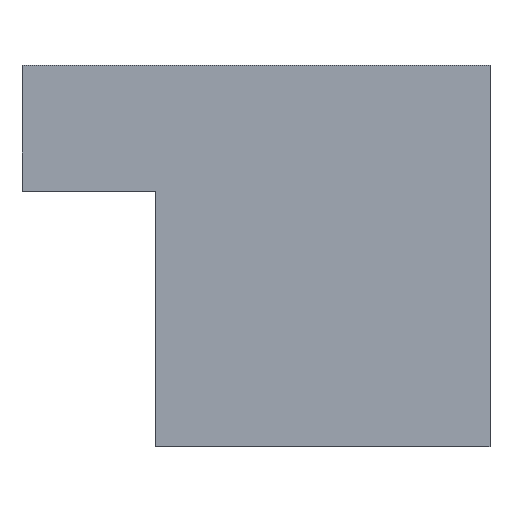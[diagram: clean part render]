
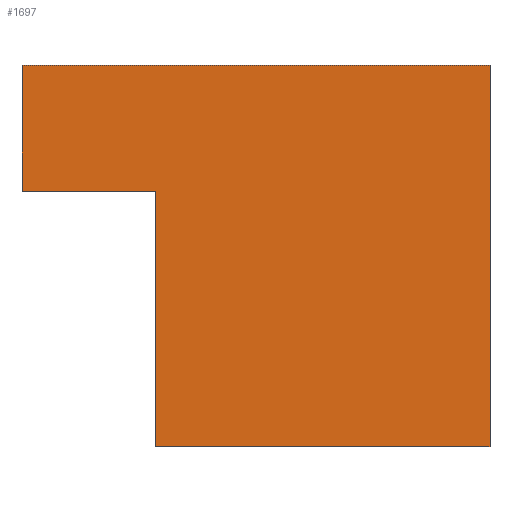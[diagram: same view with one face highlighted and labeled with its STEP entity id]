
A CAD part, left-side view. The second image highlights one B-rep face of the part: STEP entity #1697.
In plain terms, the highlighted planar face has unit normal (-1, 0, 0).
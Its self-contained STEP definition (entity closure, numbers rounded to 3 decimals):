
#100 = PLANE('',#101);
#101 = AXIS2_PLACEMENT_3D('',#102,#103,#104);
#102 = CARTESIAN_POINT('',(0.,0.,0.));
#103 = DIRECTION('',(-0.,1.,0.));
#104 = DIRECTION('',(0.,0.,1.));
#275 = PLANE('',#276);
#276 = AXIS2_PLACEMENT_3D('',#277,#278,#279);
#277 = CARTESIAN_POINT('',(0.,0.,0.));
#278 = DIRECTION('',(0.,0.,1.));
#279 = DIRECTION('',(1.,0.,-0.));
#335 = PLANE('',#336);
#336 = AXIS2_PLACEMENT_3D('',#337,#338,#339);
#337 = CARTESIAN_POINT('',(0.,0.,34.613));
#338 = DIRECTION('',(0.,0.,1.));
#339 = DIRECTION('',(1.,0.,-0.));
#613 = VERTEX_POINT('',#614);
#614 = CARTESIAN_POINT('',(0.,30.364,0.));
#628 = PLANE('',#629);
#629 = AXIS2_PLACEMENT_3D('',#630,#631,#632);
#630 = CARTESIAN_POINT('',(19.13,30.364,13.535
    ));
#631 = DIRECTION('',(0.,1.,0.));
#632 = DIRECTION('',(0.,-0.,1.));
#640 = EDGE_CURVE('',#641,#613,#643,.T.);
#641 = VERTEX_POINT('',#642);
#642 = CARTESIAN_POINT('',(0.,0.,0.));
#643 = SURFACE_CURVE('',#644,(#648,#655),.PCURVE_S1.);
#644 = LINE('',#645,#646);
#645 = CARTESIAN_POINT('',(0.,0.,0.));
#646 = VECTOR('',#647,1.);
#647 = DIRECTION('',(-0.,1.,0.));
#648 = PCURVE('',#275,#649);
#649 = DEFINITIONAL_REPRESENTATION('',(#650),#654);
#650 = LINE('',#651,#652);
#651 = CARTESIAN_POINT('',(0.,0.));
#652 = VECTOR('',#653,1.);
#653 = DIRECTION('',(0.,1.));
#654 = ( GEOMETRIC_REPRESENTATION_CONTEXT(2) 
PARAMETRIC_REPRESENTATION_CONTEXT() REPRESENTATION_CONTEXT('2D SPACE',''
  ) );
#655 = PCURVE('',#656,#661);
#656 = PLANE('',#657);
#657 = AXIS2_PLACEMENT_3D('',#658,#659,#660);
#658 = CARTESIAN_POINT('',(0.,0.,0.));
#659 = DIRECTION('',(1.,0.,-0.));
#660 = DIRECTION('',(0.,0.,1.));
#661 = DEFINITIONAL_REPRESENTATION('',(#662),#666);
#662 = LINE('',#663,#664);
#663 = CARTESIAN_POINT('',(0.,0.));
#664 = VECTOR('',#665,1.);
#665 = DIRECTION('',(0.,-1.));
#666 = ( GEOMETRIC_REPRESENTATION_CONTEXT(2) 
PARAMETRIC_REPRESENTATION_CONTEXT() REPRESENTATION_CONTEXT('2D SPACE',''
  ) );
#716 = VERTEX_POINT('',#717);
#717 = CARTESIAN_POINT('',(0.,0.,34.613));
#808 = EDGE_CURVE('',#641,#716,#809,.T.);
#809 = SURFACE_CURVE('',#810,(#814,#821),.PCURVE_S1.);
#810 = LINE('',#811,#812);
#811 = CARTESIAN_POINT('',(0.,0.,0.));
#812 = VECTOR('',#813,1.);
#813 = DIRECTION('',(0.,0.,1.));
#814 = PCURVE('',#100,#815);
#815 = DEFINITIONAL_REPRESENTATION('',(#816),#820);
#816 = LINE('',#817,#818);
#817 = CARTESIAN_POINT('',(0.,0.));
#818 = VECTOR('',#819,1.);
#819 = DIRECTION('',(1.,0.));
#820 = ( GEOMETRIC_REPRESENTATION_CONTEXT(2) 
PARAMETRIC_REPRESENTATION_CONTEXT() REPRESENTATION_CONTEXT('2D SPACE',''
  ) );
#821 = PCURVE('',#656,#822);
#822 = DEFINITIONAL_REPRESENTATION('',(#823),#827);
#823 = LINE('',#824,#825);
#824 = CARTESIAN_POINT('',(0.,0.));
#825 = VECTOR('',#826,1.);
#826 = DIRECTION('',(1.,0.));
#827 = ( GEOMETRIC_REPRESENTATION_CONTEXT(2) 
PARAMETRIC_REPRESENTATION_CONTEXT() REPRESENTATION_CONTEXT('2D SPACE',''
  ) );
#1270 = VERTEX_POINT('',#1271);
#1271 = CARTESIAN_POINT('',(0.,42.482,34.613));
#1285 = PLANE('',#1286);
#1286 = AXIS2_PLACEMENT_3D('',#1287,#1288,#1289);
#1287 = CARTESIAN_POINT('',(0.,42.482,0.));
#1288 = DIRECTION('',(-0.,1.,0.));
#1289 = DIRECTION('',(0.,0.,1.));
#1297 = EDGE_CURVE('',#716,#1270,#1298,.T.);
#1298 = SURFACE_CURVE('',#1299,(#1303,#1310),.PCURVE_S1.);
#1299 = LINE('',#1300,#1301);
#1300 = CARTESIAN_POINT('',(0.,0.,34.613));
#1301 = VECTOR('',#1302,1.);
#1302 = DIRECTION('',(-0.,1.,0.));
#1303 = PCURVE('',#335,#1304);
#1304 = DEFINITIONAL_REPRESENTATION('',(#1305),#1309);
#1305 = LINE('',#1306,#1307);
#1306 = CARTESIAN_POINT('',(0.,0.));
#1307 = VECTOR('',#1308,1.);
#1308 = DIRECTION('',(0.,1.));
#1309 = ( GEOMETRIC_REPRESENTATION_CONTEXT(2) 
PARAMETRIC_REPRESENTATION_CONTEXT() REPRESENTATION_CONTEXT('2D SPACE',''
  ) );
#1310 = PCURVE('',#656,#1311);
#1311 = DEFINITIONAL_REPRESENTATION('',(#1312),#1316);
#1312 = LINE('',#1313,#1314);
#1313 = CARTESIAN_POINT('',(34.613,0.));
#1314 = VECTOR('',#1315,1.);
#1315 = DIRECTION('',(0.,-1.));
#1316 = ( GEOMETRIC_REPRESENTATION_CONTEXT(2) 
PARAMETRIC_REPRESENTATION_CONTEXT() REPRESENTATION_CONTEXT('2D SPACE',''
  ) );
#1697 = ADVANCED_FACE('f015',(#1698),#656,.F.);
#1698 = FACE_BOUND('',#1699,.F.);
#1699 = EDGE_LOOP('',(#1700,#1701,#1702,#1703,#1726,#1754));
#1700 = ORIENTED_EDGE('',*,*,#1297,.F.);
#1701 = ORIENTED_EDGE('',*,*,#808,.F.);
#1702 = ORIENTED_EDGE('',*,*,#640,.T.);
#1703 = ORIENTED_EDGE('',*,*,#1704,.T.);
#1704 = EDGE_CURVE('',#613,#1705,#1707,.T.);
#1705 = VERTEX_POINT('',#1706);
#1706 = CARTESIAN_POINT('',(0.,30.364,23.181));
#1707 = SURFACE_CURVE('',#1708,(#1712,#1719),.PCURVE_S1.);
#1708 = LINE('',#1709,#1710);
#1709 = CARTESIAN_POINT('',(0.,30.364,0.));
#1710 = VECTOR('',#1711,1.);
#1711 = DIRECTION('',(0.,0.,1.));
#1712 = PCURVE('',#656,#1713);
#1713 = DEFINITIONAL_REPRESENTATION('',(#1714),#1718);
#1714 = LINE('',#1715,#1716);
#1715 = CARTESIAN_POINT('',(0.,-30.364));
#1716 = VECTOR('',#1717,1.);
#1717 = DIRECTION('',(1.,0.));
#1718 = ( GEOMETRIC_REPRESENTATION_CONTEXT(2) 
PARAMETRIC_REPRESENTATION_CONTEXT() REPRESENTATION_CONTEXT('2D SPACE',''
  ) );
#1719 = PCURVE('',#628,#1720);
#1720 = DEFINITIONAL_REPRESENTATION('',(#1721),#1725);
#1721 = LINE('',#1722,#1723);
#1722 = CARTESIAN_POINT('',(-13.535,-19.13));
#1723 = VECTOR('',#1724,1.);
#1724 = DIRECTION('',(1.,0.));
#1725 = ( GEOMETRIC_REPRESENTATION_CONTEXT(2) 
PARAMETRIC_REPRESENTATION_CONTEXT() REPRESENTATION_CONTEXT('2D SPACE',''
  ) );
#1726 = ORIENTED_EDGE('',*,*,#1727,.F.);
#1727 = EDGE_CURVE('',#1728,#1705,#1730,.T.);
#1728 = VERTEX_POINT('',#1729);
#1729 = CARTESIAN_POINT('',(0.,42.482,23.181));
#1730 = SURFACE_CURVE('',#1731,(#1735,#1742),.PCURVE_S1.);
#1731 = LINE('',#1732,#1733);
#1732 = CARTESIAN_POINT('',(0.,42.482,23.181));
#1733 = VECTOR('',#1734,1.);
#1734 = DIRECTION('',(0.,-1.,-0.));
#1735 = PCURVE('',#656,#1736);
#1736 = DEFINITIONAL_REPRESENTATION('',(#1737),#1741);
#1737 = LINE('',#1738,#1739);
#1738 = CARTESIAN_POINT('',(23.181,-42.482));
#1739 = VECTOR('',#1740,1.);
#1740 = DIRECTION('',(0.,1.));
#1741 = ( GEOMETRIC_REPRESENTATION_CONTEXT(2) 
PARAMETRIC_REPRESENTATION_CONTEXT() REPRESENTATION_CONTEXT('2D SPACE',''
  ) );
#1742 = PCURVE('',#1743,#1748);
#1743 = PLANE('',#1744);
#1744 = AXIS2_PLACEMENT_3D('',#1745,#1746,#1747);
#1745 = CARTESIAN_POINT('',(0.,42.482,23.181));
#1746 = DIRECTION('',(-0.437,-0.,0.899));
#1747 = DIRECTION('',(0.899,0.,0.437));
#1748 = DEFINITIONAL_REPRESENTATION('',(#1749),#1753);
#1749 = LINE('',#1750,#1751);
#1750 = CARTESIAN_POINT('',(0.,0.));
#1751 = VECTOR('',#1752,1.);
#1752 = DIRECTION('',(0.,-1.));
#1753 = ( GEOMETRIC_REPRESENTATION_CONTEXT(2) 
PARAMETRIC_REPRESENTATION_CONTEXT() REPRESENTATION_CONTEXT('2D SPACE',''
  ) );
#1754 = ORIENTED_EDGE('',*,*,#1755,.T.);
#1755 = EDGE_CURVE('',#1728,#1270,#1756,.T.);
#1756 = SURFACE_CURVE('',#1757,(#1761,#1768),.PCURVE_S1.);
#1757 = LINE('',#1758,#1759);
#1758 = CARTESIAN_POINT('',(0.,42.482,0.));
#1759 = VECTOR('',#1760,1.);
#1760 = DIRECTION('',(0.,0.,1.));
#1761 = PCURVE('',#656,#1762);
#1762 = DEFINITIONAL_REPRESENTATION('',(#1763),#1767);
#1763 = LINE('',#1764,#1765);
#1764 = CARTESIAN_POINT('',(0.,-42.482));
#1765 = VECTOR('',#1766,1.);
#1766 = DIRECTION('',(1.,0.));
#1767 = ( GEOMETRIC_REPRESENTATION_CONTEXT(2) 
PARAMETRIC_REPRESENTATION_CONTEXT() REPRESENTATION_CONTEXT('2D SPACE',''
  ) );
#1768 = PCURVE('',#1285,#1769);
#1769 = DEFINITIONAL_REPRESENTATION('',(#1770),#1774);
#1770 = LINE('',#1771,#1772);
#1771 = CARTESIAN_POINT('',(0.,0.));
#1772 = VECTOR('',#1773,1.);
#1773 = DIRECTION('',(1.,0.));
#1774 = ( GEOMETRIC_REPRESENTATION_CONTEXT(2) 
PARAMETRIC_REPRESENTATION_CONTEXT() REPRESENTATION_CONTEXT('2D SPACE',''
  ) );
